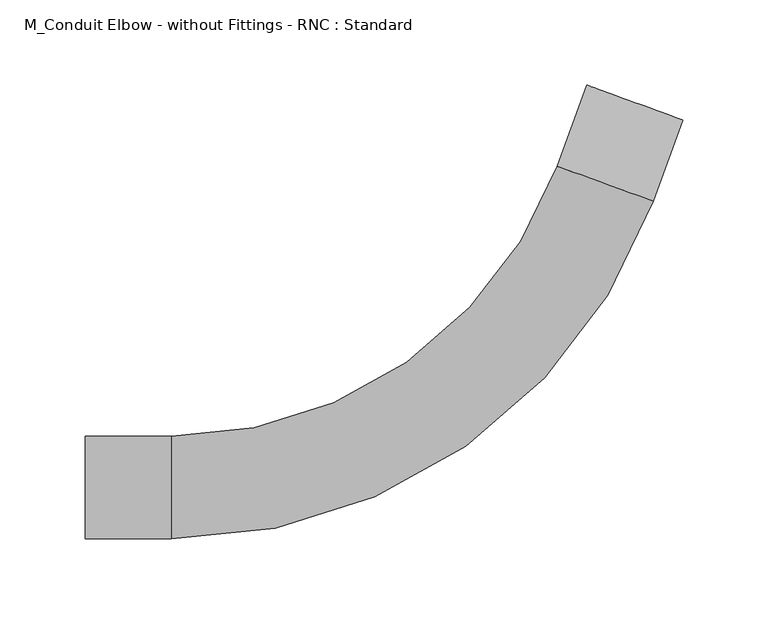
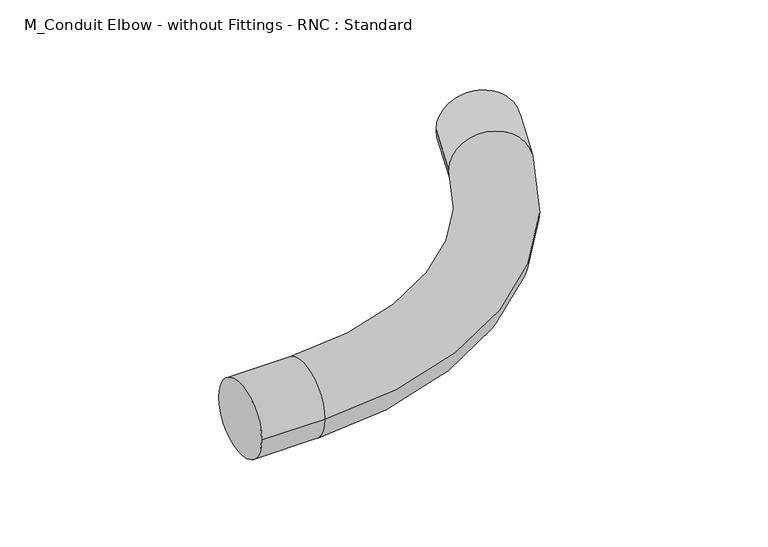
"""IFC4 building model written with IfcOpenShell, lengths in millimetres: cable carrier fitting geometry, M_Conduit Elbow - without Fittings - RNC : Standard."""

from ifc_helpers import new_model, si_unit, point, frame, origin, place, context, project, spatial, circle_curve, ellipse_curve, trimmed, source, transform, mapped, element, save
from ifc_brep_helpers import plane_surface, cylinder_surface, revolved_surface, advanced_brep


def m_conduit_elbow_without_fittings_rnc_standard_47757ada(model_context):
    return source(origin(), model_context, "Body", "AdvancedBrep", [
        advanced_brep(
        [(-240.8783383, -30.1625, 0.0), (-240.8783383, 30.1625, 0.0), (-190.0783383, -30.1625, 0.0), (-190.0783383, 30.1625, 0.0), (36.6671418, 188.9313945, 0.0), (93.3540992, 168.2990293, 0.0), (110.7287225, 216.0354145, 0.0), (54.0417651, 236.6677796, 0.0)],
        [
            (0, 1, circle_curve(frame((-240.8783383, 0.0, 0.0), z_axis=(-1.0, 0.0, 0.0), x_axis=(0.0, 1.0, 0.0)), 30.1625)),
            (1, 0, circle_curve(frame((-240.8783383, 0.0, 0.0), z_axis=(-1.0, 0.0, 0.0), x_axis=(0.0, 1.0, 0.0)), 30.1625)),
            (0, 2),
            (2, 3, circle_curve(frame((-190.0783383, 0.0, 0.0), z_axis=(-1.0, 0.0, 0.0), x_axis=(0.0, 1.0, 0.0)), 30.1625)),
            (3, 1),
            (3, 2, circle_curve(frame((-190.0783383, 0.0, 0.0), z_axis=(-1.0, 0.0, 0.0), x_axis=(0.0, 1.0, 0.0)), 30.1625)),
            (4, 3, circle_curve(frame((-190.0783383, 271.46, 0.0), z_axis=(0.0, 0.0, -1.0), x_axis=(0.0, -1.0, 0.0)), 241.2975)),
            (2, 5, circle_curve(frame((-190.0783383, 271.46, 0.0), z_axis=(0.0, 0.0, 1.0), x_axis=(0.0, -1.0, 0.0)), 301.6225)),
            (5, 4, circle_curve(frame((65.0106205, 178.6152119, 0.0), z_axis=(-0.34202014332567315, -0.9396926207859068, 0.0), x_axis=(-0.9396926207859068, 0.34202014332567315, 0.0)), 30.1625)),
            (4, 5, circle_curve(frame((65.0106205, 178.6152119, 0.0), z_axis=(-0.34202014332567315, -0.9396926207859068, 0.0), x_axis=(-0.9396926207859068, 0.34202014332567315, 0.0)), 30.1625)),
            (6, 7, circle_curve(frame((82.3852438, 226.351597, 0.0), z_axis=(0.34202014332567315, 0.939692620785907, 0.0), x_axis=(-0.9396926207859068, 0.3420201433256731, 0.0)), 30.1625)),
            (7, 6, circle_curve(frame((82.3852438, 226.351597, 0.0), z_axis=(0.34202014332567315, 0.939692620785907, 0.0), x_axis=(-0.9396926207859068, 0.3420201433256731, 0.0)), 30.1625)),
            (5, 6),
            (7, 4),
        ],
        [
            plane_surface(frame((-240.8783383, 0.0, 0.0), z_axis=(-1.0, 0.0, 0.0), x_axis=(0.0, 0.0, 1.0))),
            cylinder_surface(frame((-240.8783383, 0.0, 0.0), z_axis=(-1.0, 0.0, 0.0), x_axis=(0.0, 1.0, 0.0)), 30.1625),
            revolved_surface(trimmed(ellipse_curve(frame((-190.0783383, 0.0, 0.0), z_axis=(-1.0, 0.0, 0.0), x_axis=(0.0, 1.0, 0.0)), 30.1625, 30.1625), [point((-190.0783383, -30.1625, 0.0))], [point((-190.0783383, 30.1625, 0.0))], True, "CARTESIAN"), (-190.0783383, 271.46, 0.0), (0.0, 0.0, 1.0)),
            revolved_surface(trimmed(ellipse_curve(frame((-190.0783383, 0.0, 0.0), z_axis=(-1.0, 0.0, 0.0), x_axis=(0.0, 1.0, 0.0)), 30.1625, 30.1625), [point((-190.0783383, 30.1625, 0.0))], [point((-190.0783383, -30.1625, 0.0))], True, "CARTESIAN"), (-190.0783383, 271.46, 0.0), (0.0, 0.0, 1.0)),
            plane_surface(frame((82.3852438, 226.351597, 0.0), z_axis=(0.34202014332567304, 0.9396926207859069, 0.0), x_axis=(0.0, 0.0, 1.0))),
            cylinder_surface(frame((65.0106205, 178.6152119, 0.0), z_axis=(-0.3420201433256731, -0.9396926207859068, 0.0), x_axis=(-0.9396926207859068, 0.3420201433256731, 0.0)), 30.1625),
        ],
        [
            (0, [[1, 2]]),
            (1, [[-1, 3, 4, 5]]),
            (1, [[-2, -5, 6, -3]]),
            (2, [[7, -4, 8, 9]]),
            (3, [[-8, -6, -7, 10]]),
            (4, [[11, 12]]),
            (5, [[-9, 13, -12, 14]]),
            (5, [[-10, -14, -11, -13]]),
        ],
    ),
    ])


if __name__ == "__main__":
    model = new_model("IFC4")
    model_context = context("Model", 3, world=origin())
    ifc_project = project(units=[si_unit("LENGTHUNIT", "METRE", prefix="MILLI")], contexts=[model_context])
    site = spatial("IfcSite", under=ifc_project)
    building = spatial("IfcBuilding", under=site)
    placement = place(None, origin())
    m_conduit_elbow_without_fittings_rnc_standard_shape = m_conduit_elbow_without_fittings_rnc_standard_47757ada(model_context)
    element("IfcCableCarrierFitting", 1, ObjectType="M_Conduit Elbow - without Fittings - RNC : Standard", at=placement, inside=building, context=model_context, shape_type="MappedRepresentation", body=[
        mapped(m_conduit_elbow_without_fittings_rnc_standard_shape, transform((0.0, 0.0, 0.0), x_axis=(1.0, 0.0, 0.0), y_axis=(0.0, 1.0, 0.0), z_axis=(0.0, 0.0, 1.0))),
    ])
    save(model, "model.ifc")
